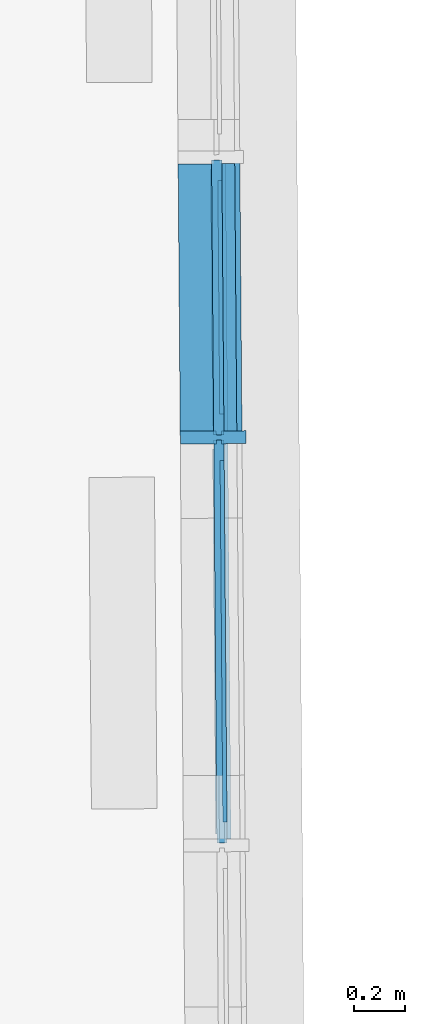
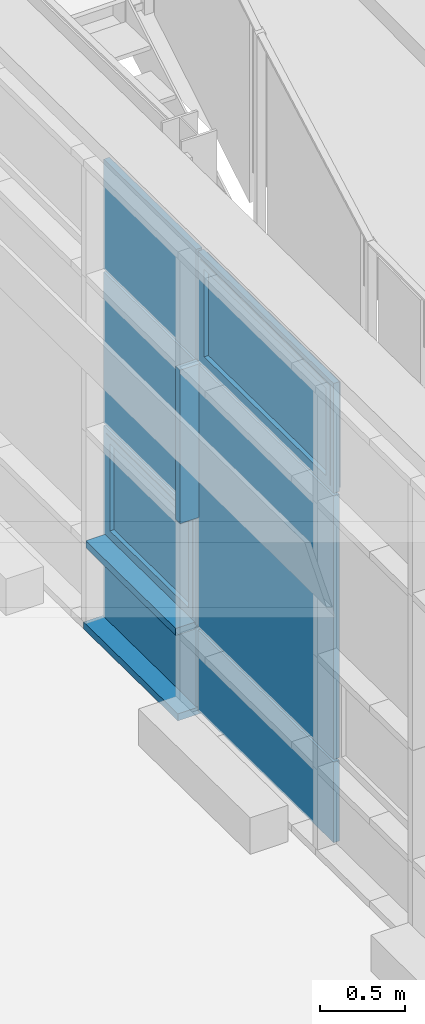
# One storey, part 104 of 158: 12 building element parts, 1 element without a shape of its own.
"""IFC2X3 building model written with IfcOpenShell, lengths in metres."""

from ifc_helpers import new_model, entity, si_unit, converted_unit, derived_unit, money_unit, direction, frame, origin_with_axes, place, context, subcontext, project, spatial, faceted_brep, material, type_object, element, aggregate, save


model = new_model("IFC2X3")

# Units and contexts
model_context = context("Model", 3, precision=1e-05, world=origin_with_axes(), true_north=direction((0.0, 1.0)))
body_context = subcontext(model_context, "Body", "Model", "MODEL_VIEW")
ifc_project = project(units=[si_unit("LENGTHUNIT", "METRE"), si_unit("AREAUNIT", "SQUARE_METRE"), si_unit("VOLUMEUNIT", "CUBIC_METRE"), converted_unit("PLANEANGLEUNIT", "DEGREE", entity("IfcPlaneAngleMeasure", 0.0174532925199), si_unit("PLANEANGLEUNIT", "RADIAN"), dimensions=[0, 0, 0, 0, 0, 0, 0]), money_unit("EUR"), converted_unit("TIMEUNIT", "Year", entity("IfcTimeMeasure", 31556926.0), si_unit("TIMEUNIT", "SECOND"), dimensions=[0, 0, 1, 0, 0, 0, 0]), si_unit("MASSUNIT", "GRAM", prefix="KILO"), si_unit("THERMODYNAMICTEMPERATUREUNIT", "DEGREE_CELSIUS"), si_unit("LUMINOUSINTENSITYUNIT", "LUMEN"), si_unit("ENERGYUNIT", "JOULE", prefix="MEGA"), derived_unit("THERMALCONDUCTANCEUNIT", [(si_unit("POWERUNIT", "WATT"), 1), (si_unit("LENGTHUNIT", "METRE"), -1), (si_unit("THERMODYNAMICTEMPERATUREUNIT", "KELVIN"), -1)]), derived_unit("SPECIFICHEATCAPACITYUNIT", [(si_unit("ENERGYUNIT", "JOULE"), 1), (si_unit("MASSUNIT", "GRAM", prefix="KILO"), -1), (si_unit("THERMODYNAMICTEMPERATUREUNIT", "KELVIN"), -1)]), derived_unit("MASSDENSITYUNIT", [(si_unit("MASSUNIT", "GRAM", prefix="KILO"), 1), (si_unit("VOLUMEUNIT", "CUBIC_METRE"), -1)])], contexts=[model_context])

# Site, building, storey
site_placement = place(None, origin_with_axes())
site = spatial("IfcSite", under=ifc_project, at=site_placement, Name="Gelände", CompositionType="ELEMENT")
building_placement = place(site_placement, origin_with_axes())
building = spatial("IfcBuilding", under=site, at=building_placement, Name="Gebäude", CompositionType="ELEMENT")
storey_placement = place(building_placement, origin_with_axes())
storey = spatial("IfcBuildingStorey", under=building, at=storey_placement, Name="ERDGESCHOSS", CompositionType="ELEMENT", Elevation=0.0)

# Proxy, building element parts
building_element_proxy_type = type_object("IfcBuildingElementProxyType", Name="Fassadentyp", PredefinedType="NOTDEFINED")
proxy_placement = place(storey_placement, frame((-15.5457352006, 40.9565245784, 1.34043905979), z_axis=(0.0, 0.0, 1.0), x_axis=(1.0, 0.0, 0.0)))
proxy = element("IfcBuildingElementProxy", 1, at=proxy_placement, inside=storey, type_object=building_element_proxy_type, Name="Fassade-002")
ifc_material_1 = material(Name="45_Glas, Normalglas")
building_element_part_1_placement = place(proxy_placement, origin_with_axes())
building_element_part_1 = element("IfcBuildingElementPart", 2, at=building_element_part_1_placement, material=ifc_material_1, Name="45_Glas, Normalglas", context=body_context, shape_type="Brep", body=[
    faceted_brep([(0.00616035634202, -3.36213145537, 2.50999994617), (0.0461591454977, -3.36182022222, 2.50999994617), (0.044119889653, -3.09974093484, 2.50999994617), (0.0041211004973, -3.100052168, 2.50999994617), (0.00616035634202, -3.36213145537, 1.42310936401), (0.0461591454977, -3.36182022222, 1.42310936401), (0.0461591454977, -3.36182022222, 1.41999994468), (0.0461591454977, -3.36182022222, 0.629999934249), (0.044119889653, -3.09974093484, 0.629999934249), (0.036339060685, -2.09977120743, 0.629999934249), (0.0339732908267, -1.79572927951, 0.629999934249), (0.0339732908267, -1.79572927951, 1.41999994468), (0.0339732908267, -1.79572927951, 1.4231093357), (0.0339732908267, -1.79572927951, 2.50999994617), (0.036339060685, -2.09977120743, 2.50999994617), (-0.00365972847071, -2.10008244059, 2.50999994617), (-0.00602549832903, -1.79604051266, 2.50999994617), (-0.00602549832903, -1.79604051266, 1.4231093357), (-0.00602549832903, -1.79604051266, 1.41999994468), (-0.00602549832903, -1.79604051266, 0.629999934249), (-0.00365972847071, -2.10008244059, 0.629999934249), (0.0041211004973, -3.100052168, 0.629999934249), (0.00616035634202, -3.36213145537, 0.629999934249), (0.00616035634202, -3.36213145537, 1.41999994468)], [[[0, 1, 2, 3]], [[4, 5, 1, 0]], [[1, 5, 6, 7, 8, 9, 10, 11, 12, 13, 14, 2]], [[3, 2, 14, 15]], [[0, 3, 15, 16, 17, 18, 19, 20, 21, 22, 23, 4]], [[23, 6, 5, 4]], [[22, 7, 6, 23]], [[21, 8, 7, 22]], [[20, 9, 8, 21]], [[19, 10, 9, 20]], [[18, 11, 10, 19]], [[17, 12, 11, 18]], [[16, 13, 12, 17]], [[15, 14, 13, 16]]]),
])
building_element_part_2_placement = place(proxy_placement, origin_with_axes())
building_element_part_2 = element("IfcBuildingElementPart", 3, at=building_element_part_2_placement, material=ifc_material_1, Name="45_Glas, Normalglas", context=body_context, shape_type="Brep", body=[
    faceted_brep([(0.00616035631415, -3.36213145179, 0.609999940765), (0.0461591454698, -3.36182021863, 0.609999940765), (0.0441198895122, -3.09974091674, 0.609999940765), (0.00412110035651, -3.1000521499, 0.609999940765), (0.00616035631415, -3.36213145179, 0.0349999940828), (0.0461591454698, -3.36182021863, 0.0349999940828), (0.0441198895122, -3.09974091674, 0.0349999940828), (0.0363390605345, -2.09977118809, 0.0349999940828), (0.033973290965, -1.79572929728, 0.0349999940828), (0.033973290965, -1.79572929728, 0.609999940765), (0.0363390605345, -2.09977118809, 0.609999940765), (-0.00365972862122, -2.10008242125, 0.609999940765), (-0.00602549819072, -1.79604053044, 0.609999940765), (-0.00602549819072, -1.79604053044, 0.0349999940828), (-0.00365972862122, -2.10008242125, 0.0349999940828), (0.00412110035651, -3.1000521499, 0.0349999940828)], [[[0, 1, 2, 3]], [[4, 5, 1, 0]], [[1, 5, 6, 7, 8, 9, 10, 2]], [[3, 2, 10, 11]], [[0, 3, 11, 12, 13, 14, 15, 4]], [[15, 6, 5, 4]], [[14, 7, 6, 15]], [[13, 8, 7, 14]], [[12, 9, 8, 13]], [[11, 10, 9, 12]]]),
])
ifc_material_2 = material(Name="53_Metall, Aluminium")
building_element_part_3_placement = place(proxy_placement, origin_with_axes())
building_element_part_3 = element("IfcBuildingElementPart", 4, at=building_element_part_3_placement, material=ifc_material_2, Name="53_Metall, Aluminium", context=body_context, shape_type="Brep", body=[
    faceted_brep([(0.0356187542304, -0.721989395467, 0.644999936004), (0.0406186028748, -0.721950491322, 0.644999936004), (0.0487005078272, -1.76061363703, 0.644999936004), (0.0437006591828, -1.76065254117, 0.644999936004), (0.0359688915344, -0.766988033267, 0.689999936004), (0.0409687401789, -0.766949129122, 0.689999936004), (0.0483503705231, -1.71561499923, 0.689999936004), (0.0433505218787, -1.71565390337, 0.689999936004)], [[[0, 1, 2, 3]], [[4, 5, 1, 0]], [[1, 5, 6, 2]], [[3, 2, 6, 7]], [[0, 3, 7, 4]], [[7, 6, 5, 4]]]),
    faceted_brep([(0.0437006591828, -1.76065254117, 0.644999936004), (0.0487005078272, -1.76061363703, 0.644999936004), (0.0487005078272, -1.76061363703, 1.39810935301), (0.0437006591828, -1.76065254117, 1.39810935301), (0.0433505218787, -1.71565390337, 0.689999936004), (0.0483503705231, -1.71561499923, 0.689999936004), (0.0483503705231, -1.71561499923, 1.35310935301), (0.0433505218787, -1.71565390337, 1.35310935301)], [[[0, 1, 2, 3]], [[4, 5, 1, 0]], [[1, 5, 6, 2]], [[3, 2, 6, 7]], [[0, 3, 7, 4]], [[7, 6, 5, 4]]]),
    faceted_brep([(0.0356187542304, -0.721989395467, 1.39810935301), (0.0406186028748, -0.721950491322, 1.39810935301), (0.0409687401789, -0.766949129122, 1.35310935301), (0.0359688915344, -0.766988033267, 1.35310935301), (0.0437006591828, -1.76065254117, 1.39810935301), (0.0487005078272, -1.76061363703, 1.39810935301), (0.0483503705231, -1.71561499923, 1.35310935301), (0.0433505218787, -1.71565390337, 1.35310935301)], [[[0, 1, 2, 3]], [[4, 5, 1, 0]], [[1, 5, 6, 2]], [[3, 2, 6, 7]], [[0, 3, 7, 4]], [[7, 6, 5, 4]]]),
    faceted_brep([(0.0356187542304, -0.721989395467, 0.644999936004), (0.0406186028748, -0.721950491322, 0.644999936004), (0.0409687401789, -0.766949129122, 0.689999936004), (0.0359688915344, -0.766988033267, 0.689999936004), (0.0356187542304, -0.721989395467, 1.39810935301), (0.0406186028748, -0.721950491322, 1.39810935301), (0.0409687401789, -0.766949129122, 1.35310935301), (0.0359688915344, -0.766988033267, 1.35310935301)], [[[0, 1, 2, 3]], [[4, 5, 1, 0]], [[1, 5, 6, 2]], [[3, 2, 6, 7]], [[0, 3, 7, 4]], [[7, 6, 5, 4]]]),
    faceted_brep([(-0.0143797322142, -0.722378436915, 0.644999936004), (0.0356187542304, -0.721989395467, 0.644999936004), (0.0437006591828, -1.76065254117, 0.644999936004), (-0.00629782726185, -1.76104158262, 0.644999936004), (-0.0142241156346, -0.742377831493, 0.664999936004), (0.03577437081, -0.741988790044, 0.664999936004), (0.0435450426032, -1.7406531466, 0.664999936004), (-0.00645344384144, -1.74104218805, 0.664999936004)], [[[0, 1, 2, 3]], [[4, 5, 1, 0]], [[1, 5, 6, 2]], [[3, 2, 6, 7]], [[0, 3, 7, 4]], [[7, 6, 5, 4]]]),
    faceted_brep([(-0.00629782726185, -1.76104158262, 0.644999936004), (0.0437006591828, -1.76065254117, 0.644999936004), (0.0437006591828, -1.76065254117, 1.39810935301), (-0.00629782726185, -1.76104158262, 1.39810935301), (-0.00645344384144, -1.74104218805, 0.664999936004), (0.0435450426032, -1.7406531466, 0.664999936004), (0.0435450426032, -1.7406531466, 1.37810935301), (-0.00645344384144, -1.74104218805, 1.37810935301)], [[[0, 1, 2, 3]], [[4, 5, 1, 0]], [[1, 5, 6, 2]], [[3, 2, 6, 7]], [[0, 3, 7, 4]], [[7, 6, 5, 4]]]),
    faceted_brep([(-0.0143797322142, -0.722378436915, 1.39810935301), (0.0356187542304, -0.721989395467, 1.39810935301), (0.03577437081, -0.741988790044, 1.37810935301), (-0.0142241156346, -0.742377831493, 1.37810935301), (-0.00629782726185, -1.76104158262, 1.39810935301), (0.0437006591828, -1.76065254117, 1.39810935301), (0.0435450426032, -1.7406531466, 1.37810935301), (-0.00645344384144, -1.74104218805, 1.37810935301)], [[[0, 1, 2, 3]], [[4, 5, 1, 0]], [[1, 5, 6, 2]], [[3, 2, 6, 7]], [[0, 3, 7, 4]], [[7, 6, 5, 4]]]),
    faceted_brep([(-0.0143797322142, -0.722378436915, 0.644999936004), (0.0356187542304, -0.721989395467, 0.644999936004), (0.03577437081, -0.741988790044, 0.664999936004), (-0.0142241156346, -0.742377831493, 0.664999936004), (-0.0143797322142, -0.722378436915, 1.39810935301), (0.0356187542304, -0.721989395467, 1.39810935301), (0.03577437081, -0.741988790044, 1.37810935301), (-0.0142241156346, -0.742377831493, 1.37810935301)], [[[0, 1, 2, 3]], [[4, 5, 1, 0]], [[1, 5, 6, 2]], [[3, 2, 6, 7]], [[0, 3, 7, 4]], [[7, 6, 5, 4]]]),
    faceted_brep([(-0.0144964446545, -0.707378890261, 0.629999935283), (0.0255023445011, -0.707067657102, 0.629999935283), (0.0338176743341, -1.77572989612, 0.629999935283), (-0.00618111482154, -1.77604112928, 0.629999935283), (-0.0143797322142, -0.722378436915, 0.644999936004), (0.0256190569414, -0.722067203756, 0.644999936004), (0.0337009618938, -1.76073034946, 0.644999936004), (-0.00629782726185, -1.76104158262, 0.644999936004)], [[[0, 1, 2, 3]], [[4, 5, 1, 0]], [[1, 5, 6, 2]], [[3, 2, 6, 7]], [[0, 3, 7, 4]], [[7, 6, 5, 4]]]),
    faceted_brep([(-0.00618111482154, -1.77604112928, 0.629999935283), (0.0338176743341, -1.77572989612, 0.629999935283), (0.0338176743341, -1.77572989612, 1.41310935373), (-0.00618111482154, -1.77604112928, 1.41310935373), (-0.00629782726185, -1.76104158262, 0.644999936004), (0.0337009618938, -1.76073034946, 0.644999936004), (0.0337009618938, -1.76073034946, 1.39810935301), (-0.00629782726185, -1.76104158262, 1.39810935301)], [[[0, 1, 2, 3]], [[4, 5, 1, 0]], [[1, 5, 6, 2]], [[3, 2, 6, 7]], [[0, 3, 7, 4]], [[7, 6, 5, 4]]]),
    faceted_brep([(-0.00618111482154, -1.77604112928, 1.41310935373), (0.0338176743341, -1.77572989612, 1.41310935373), (0.0255023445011, -0.707067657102, 1.41310935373), (-0.0144964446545, -0.707378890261, 1.41310935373), (-0.00629782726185, -1.76104158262, 1.39810935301), (0.0337009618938, -1.76073034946, 1.39810935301), (0.0256190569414, -0.722067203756, 1.39810935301), (-0.0143797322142, -0.722378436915, 1.39810935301)], [[[0, 1, 2, 3]], [[4, 5, 1, 0]], [[1, 5, 6, 2]], [[3, 2, 6, 7]], [[0, 3, 7, 4]], [[7, 6, 5, 4]]]),
    faceted_brep([(-0.0144964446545, -0.707378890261, 1.41310935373), (0.0255023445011, -0.707067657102, 1.41310935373), (0.0255023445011, -0.707067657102, 0.629999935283), (-0.0144964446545, -0.707378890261, 0.629999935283), (-0.0143797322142, -0.722378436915, 1.39810935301), (0.0256190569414, -0.722067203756, 1.39810935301), (0.0256190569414, -0.722067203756, 0.644999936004), (-0.0143797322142, -0.722378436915, 0.644999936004)], [[[0, 1, 2, 3]], [[4, 5, 1, 0]], [[1, 5, 6, 2]], [[3, 2, 6, 7]], [[0, 3, 7, 4]], [[7, 6, 5, 4]]]),
    faceted_brep([(0.036124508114, -0.786987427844, 0.709999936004), (0.036124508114, -0.786987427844, 1.33310935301), (-0.018873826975, -0.787415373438, 1.33310935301), (-0.018873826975, -0.787415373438, 0.709999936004), (0.03577437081, -0.741988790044, 0.664999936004), (0.03577437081, -0.741988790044, 1.37810935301), (-0.0192239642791, -0.742416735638, 1.37810935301), (-0.0192239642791, -0.742416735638, 0.664999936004)], [[[0, 1, 2, 3]], [[0, 4, 5, 1]], [[1, 5, 6, 2]], [[3, 2, 6, 7]], [[4, 0, 3, 7]], [[5, 4, 7, 6]]]),
    faceted_brep([(0.0435450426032, -1.7406531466, 0.664999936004), (0.0435450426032, -1.7406531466, 1.37810935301), (-0.0114532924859, -1.74108109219, 1.37810935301), (-0.0114532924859, -1.74108109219, 0.664999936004), (0.0431949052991, -1.6956545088, 0.709999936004), (0.0431949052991, -1.6956545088, 1.33310935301), (-0.01180342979, -1.69608245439, 1.33310935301), (-0.01180342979, -1.69608245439, 0.709999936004)], [[[0, 1, 2, 3]], [[0, 4, 5, 1]], [[1, 5, 6, 2]], [[3, 2, 6, 7]], [[4, 0, 3, 7]], [[5, 4, 7, 6]]]),
    faceted_brep([(0.0435450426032, -1.7406531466, 0.664999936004), (0.0431949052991, -1.6956545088, 0.709999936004), (-0.01180342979, -1.69608245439, 0.709999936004), (-0.0114532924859, -1.74108109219, 0.664999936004), (0.03577437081, -0.741988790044, 0.664999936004), (0.036124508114, -0.786987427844, 0.709999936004), (-0.018873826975, -0.787415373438, 0.709999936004), (-0.0192239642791, -0.742416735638, 0.664999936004)], [[[0, 1, 2, 3]], [[0, 4, 5, 1]], [[1, 5, 6, 2]], [[3, 2, 6, 7]], [[4, 0, 3, 7]], [[5, 4, 7, 6]]]),
    faceted_brep([(0.03577437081, -0.741988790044, 1.37810935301), (0.036124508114, -0.786987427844, 1.33310935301), (-0.018873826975, -0.787415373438, 1.33310935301), (-0.0192239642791, -0.742416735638, 1.37810935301), (0.0435450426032, -1.7406531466, 1.37810935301), (0.0431949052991, -1.6956545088, 1.33310935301), (-0.01180342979, -1.69608245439, 1.33310935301), (-0.0114532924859, -1.74108109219, 1.37810935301)], [[[0, 1, 2, 3]], [[0, 4, 5, 1]], [[1, 5, 6, 2]], [[3, 2, 6, 7]], [[4, 0, 3, 7]], [[5, 4, 7, 6]]]),
])
building_element_part_4_placement = place(proxy_placement, origin_with_axes())
building_element_part_4 = element("IfcBuildingElementPart", 5, at=building_element_part_4_placement, material=ifc_material_1, Name="45_Glas, Normalglas", context=body_context, shape_type="Brep", body=[
    faceted_brep([(0.0261248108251, -0.787065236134, 0.709999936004), (0.0331952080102, -1.69573231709, 0.709999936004), (0.0171956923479, -1.69585681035, 0.709999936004), (0.0101252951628, -0.787189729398, 0.709999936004), (0.0261248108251, -0.787065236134, 1.33310935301), (0.0331952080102, -1.69573231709, 1.33310935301), (0.0171956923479, -1.69585681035, 1.33310935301), (0.0101252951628, -0.787189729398, 1.33310935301)], [[[0, 1, 2, 3]], [[0, 4, 5, 1]], [[1, 5, 6, 2]], [[3, 2, 6, 7]], [[4, 0, 3, 7]], [[5, 4, 7, 6]]]),
])
building_element_part_5_placement = place(proxy_placement, origin_with_axes())
building_element_part_5 = element("IfcBuildingElementPart", 6, at=building_element_part_5_placement, material=ifc_material_1, Name="45_Glas, Normalglas", context=body_context, shape_type="Brep", body=[
    faceted_brep([(-0.00618111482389, -1.77604112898, 0.609999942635), (0.0338176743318, -1.77572989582, 0.609999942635), (0.0255023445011, -0.707067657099, 0.609999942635), (-0.0144964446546, -0.707378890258, 0.609999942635), (-0.00618111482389, -1.77604112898, 0.0350000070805), (0.0338176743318, -1.77572989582, 0.0350000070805), (0.0255023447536, -0.707067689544, 0.0350000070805), (-0.0144964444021, -0.707378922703, 0.0350000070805)], [[[0, 1, 2, 3]], [[4, 5, 1, 0]], [[1, 5, 6, 2]], [[3, 2, 6, 7]], [[0, 3, 7, 4]], [[7, 6, 5, 4]]]),
])
building_element_part_6_placement = place(proxy_placement, origin_with_axes())
building_element_part_6 = element("IfcBuildingElementPart", 7, at=building_element_part_6_placement, material=ifc_material_1, Name="45_Glas, Normalglas", context=body_context, shape_type="Brep", body=[
    faceted_brep([(-0.00618111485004, -1.77604112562, 2.50999994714), (0.0338176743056, -1.77572989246, 2.50999994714), (0.0255023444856, -0.707067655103, 2.50999994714), (-0.0144964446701, -0.707378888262, 2.50999994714), (-0.00618111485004, -1.77604112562, 1.43310934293), (0.0338176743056, -1.77572989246, 1.43310934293), (0.0255023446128, -0.707067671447, 1.43310934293), (-0.0144964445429, -0.707378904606, 1.43310934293)], [[[0, 1, 2, 3]], [[4, 5, 1, 0]], [[1, 5, 6, 2]], [[3, 2, 6, 7]], [[0, 3, 7, 4]], [[7, 6, 5, 4]]]),
])
building_element_part_7_placement = place(proxy_placement, origin_with_axes())
building_element_part_7 = element("IfcBuildingElementPart", 8, at=building_element_part_7_placement, material=ifc_material_1, Name="45_Glas, Normalglas", context=body_context, shape_type="Brep", body=[
    faceted_brep([(-0.00618111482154, -1.77604112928, 3.31499988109), (0.0338176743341, -1.77572989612, 3.31499988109), (0.0255023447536, -0.707067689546, 3.31499988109), (-0.0144964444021, -0.707378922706, 3.31499988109), (-0.00618111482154, -1.77604112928, 2.52999993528), (0.0338176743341, -1.77572989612, 2.52999993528), (0.0255023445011, -0.707067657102, 2.52999993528), (-0.0144964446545, -0.707378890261, 2.52999993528)], [[[0, 1, 2, 3]], [[4, 5, 1, 0]], [[1, 5, 6, 2]], [[3, 2, 6, 7]], [[0, 3, 7, 4]], [[7, 6, 5, 4]]]),
])
building_element_part_8_placement = place(proxy_placement, origin_with_axes())
building_element_part_8 = element("IfcBuildingElementPart", 9, at=building_element_part_8_placement, material=ifc_material_2, Name="53_Metall, Aluminium", context=body_context, shape_type="Brep", body=[
    faceted_brep([(0.0440897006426, -1.81065102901, 2.54499994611), (0.049089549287, -1.81061212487, 2.54499994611), (0.0610419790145, -3.34670396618, 2.54499994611), (0.0560421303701, -3.34674287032, 2.54499994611), (0.0444398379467, -1.85564966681, 2.58999994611), (0.0494396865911, -1.85561076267, 2.58999994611), (0.0606918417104, -3.30170532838, 2.58999994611), (0.055691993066, -3.30174423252, 2.58999994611)], [[[0, 1, 2, 3]], [[4, 5, 1, 0]], [[1, 5, 6, 2]], [[3, 2, 6, 7]], [[0, 3, 7, 4]], [[7, 6, 5, 4]]]),
    faceted_brep([(0.0560421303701, -3.34674287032, 2.54499994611), (0.0610419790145, -3.34670396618, 2.54499994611), (0.0610419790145, -3.34670396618, 3.29999986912), (0.0560421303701, -3.34674287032, 3.29999986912), (0.055691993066, -3.30174423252, 2.58999994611), (0.0606918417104, -3.30170532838, 2.58999994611), (0.0606918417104, -3.30170532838, 3.25499986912), (0.055691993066, -3.30174423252, 3.25499986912)], [[[0, 1, 2, 3]], [[4, 5, 1, 0]], [[1, 5, 6, 2]], [[3, 2, 6, 7]], [[0, 3, 7, 4]], [[7, 6, 5, 4]]]),
    faceted_brep([(0.0440897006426, -1.81065102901, 3.29999986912), (0.049089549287, -1.81061212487, 3.29999986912), (0.0494396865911, -1.85561076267, 3.25499986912), (0.0444398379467, -1.85564966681, 3.25499986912), (0.0560421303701, -3.34674287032, 3.29999986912), (0.0610419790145, -3.34670396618, 3.29999986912), (0.0606918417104, -3.30170532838, 3.25499986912), (0.055691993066, -3.30174423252, 3.25499986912)], [[[0, 1, 2, 3]], [[4, 5, 1, 0]], [[1, 5, 6, 2]], [[3, 2, 6, 7]], [[0, 3, 7, 4]], [[7, 6, 5, 4]]]),
    faceted_brep([(0.0440897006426, -1.81065102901, 2.54499994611), (0.049089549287, -1.81061212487, 2.54499994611), (0.0494396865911, -1.85561076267, 2.58999994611), (0.0444398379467, -1.85564966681, 2.58999994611), (0.0440897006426, -1.81065102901, 3.29999986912), (0.049089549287, -1.81061212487, 3.29999986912), (0.0494396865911, -1.85561076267, 3.25499986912), (0.0444398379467, -1.85564966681, 3.25499986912)], [[[0, 1, 2, 3]], [[4, 5, 1, 0]], [[1, 5, 6, 2]], [[3, 2, 6, 7]], [[0, 3, 7, 4]], [[7, 6, 5, 4]]]),
    faceted_brep([(-0.00590878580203, -1.81104007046, 2.54499994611), (0.0440897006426, -1.81065102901, 2.54499994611), (0.0560421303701, -3.34674287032, 2.54499994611), (0.00604364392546, -3.34713191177, 2.54499994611), (-0.00575316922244, -1.83103946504, 2.56499994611), (0.0442453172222, -1.83065042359, 2.56499994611), (0.0558865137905, -3.32674347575, 2.56499994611), (0.00588802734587, -3.32713251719, 2.56499994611)], [[[0, 1, 2, 3]], [[4, 5, 1, 0]], [[1, 5, 6, 2]], [[3, 2, 6, 7]], [[0, 3, 7, 4]], [[7, 6, 5, 4]]]),
    faceted_brep([(0.00604364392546, -3.34713191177, 2.54499994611), (0.0560421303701, -3.34674287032, 2.54499994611), (0.0560421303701, -3.34674287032, 3.29999986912), (0.00604364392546, -3.34713191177, 3.29999986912), (0.00588802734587, -3.32713251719, 2.56499994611), (0.0558865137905, -3.32674347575, 2.56499994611), (0.0558865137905, -3.32674347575, 3.27999986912), (0.00588802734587, -3.32713251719, 3.27999986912)], [[[0, 1, 2, 3]], [[4, 5, 1, 0]], [[1, 5, 6, 2]], [[3, 2, 6, 7]], [[0, 3, 7, 4]], [[7, 6, 5, 4]]]),
    faceted_brep([(-0.00590878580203, -1.81104007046, 3.29999986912), (0.0440897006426, -1.81065102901, 3.29999986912), (0.0442453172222, -1.83065042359, 3.27999986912), (-0.00575316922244, -1.83103946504, 3.27999986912), (0.00604364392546, -3.34713191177, 3.29999986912), (0.0560421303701, -3.34674287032, 3.29999986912), (0.0558865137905, -3.32674347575, 3.27999986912), (0.00588802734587, -3.32713251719, 3.27999986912)], [[[0, 1, 2, 3]], [[4, 5, 1, 0]], [[1, 5, 6, 2]], [[3, 2, 6, 7]], [[0, 3, 7, 4]], [[7, 6, 5, 4]]]),
    faceted_brep([(-0.00590878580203, -1.81104007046, 2.54499994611), (0.0440897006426, -1.81065102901, 2.54499994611), (0.0442453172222, -1.83065042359, 2.56499994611), (-0.00575316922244, -1.83103946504, 2.56499994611), (-0.00590878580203, -1.81104007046, 3.29999986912), (0.0440897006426, -1.81065102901, 3.29999986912), (0.0442453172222, -1.83065042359, 3.27999986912), (-0.00575316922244, -1.83103946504, 3.27999986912)], [[[0, 1, 2, 3]], [[4, 5, 1, 0]], [[1, 5, 6, 2]], [[3, 2, 6, 7]], [[0, 3, 7, 4]], [[7, 6, 5, 4]]]),
    faceted_brep([(-0.00602549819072, -1.79604053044, 2.52999995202), (0.033973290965, -1.79572929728, 2.52999995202), (0.0461591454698, -3.36182021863, 2.52999995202), (0.00616035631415, -3.36213145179, 2.52999995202), (-0.00590878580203, -1.81104007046, 2.54499994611), (0.0340900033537, -1.8107288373, 2.54499994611), (0.0460424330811, -3.34682067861, 2.54499994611), (0.00604364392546, -3.34713191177, 2.54499994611)], [[[0, 1, 2, 3]], [[4, 5, 1, 0]], [[1, 5, 6, 2]], [[3, 2, 6, 7]], [[0, 3, 7, 4]], [[7, 6, 5, 4]]]),
    faceted_brep([(0.00616035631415, -3.36213145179, 2.52999995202), (0.0461591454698, -3.36182021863, 2.52999995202), (0.0461591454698, -3.36182021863, 3.31499988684), (0.00616035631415, -3.36213145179, 3.31499988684), (0.00604364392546, -3.34713191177, 2.54499994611), (0.0460424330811, -3.34682067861, 2.54499994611), (0.0460424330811, -3.34682067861, 3.29999986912), (0.00604364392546, -3.34713191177, 3.29999986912)], [[[0, 1, 2, 3]], [[4, 5, 1, 0]], [[1, 5, 6, 2]], [[3, 2, 6, 7]], [[0, 3, 7, 4]], [[7, 6, 5, 4]]]),
    faceted_brep([(0.00616035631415, -3.36213145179, 3.31499988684), (0.0461591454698, -3.36182021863, 3.31499988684), (0.033973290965, -1.79572929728, 3.31499988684), (-0.00602549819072, -1.79604053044, 3.31499988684), (0.00604364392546, -3.34713191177, 3.29999986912), (0.0460424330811, -3.34682067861, 3.29999986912), (0.0340900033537, -1.8107288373, 3.29999986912), (-0.00590878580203, -1.81104007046, 3.29999986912)], [[[0, 1, 2, 3]], [[4, 5, 1, 0]], [[1, 5, 6, 2]], [[3, 2, 6, 7]], [[0, 3, 7, 4]], [[7, 6, 5, 4]]]),
    faceted_brep([(-0.00602549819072, -1.79604053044, 3.31499988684), (0.033973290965, -1.79572929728, 3.31499988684), (0.033973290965, -1.79572929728, 2.52999995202), (-0.00602549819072, -1.79604053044, 2.52999995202), (-0.00590878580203, -1.81104007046, 3.29999986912), (0.0340900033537, -1.8107288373, 3.29999986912), (0.0340900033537, -1.8107288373, 2.54499994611), (-0.00590878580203, -1.81104007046, 2.54499994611)], [[[0, 1, 2, 3]], [[4, 5, 1, 0]], [[1, 5, 6, 2]], [[3, 2, 6, 7]], [[0, 3, 7, 4]], [[7, 6, 5, 4]]]),
    faceted_brep([(0.0445954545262, -1.87564906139, 2.60999994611), (0.0445954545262, -1.87564906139, 3.23499986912), (-0.0104028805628, -1.87607700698, 3.23499986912), (-0.0104028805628, -1.87607700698, 2.60999994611), (0.0442453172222, -1.83065042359, 2.56499994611), (0.0442453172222, -1.83065042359, 3.27999986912), (-0.0107530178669, -1.83107836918, 3.27999986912), (-0.0107530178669, -1.83107836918, 2.56499994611)], [[[0, 1, 2, 3]], [[0, 4, 5, 1]], [[1, 5, 6, 2]], [[3, 2, 6, 7]], [[4, 0, 3, 7]], [[5, 4, 7, 6]]]),
    faceted_brep([(0.0558865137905, -3.32674347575, 2.56499994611), (0.0558865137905, -3.32674347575, 3.27999986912), (0.000888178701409, -3.32717142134, 3.27999986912), (0.000888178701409, -3.32717142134, 2.56499994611), (0.0555363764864, -3.28174483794, 2.60999994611), (0.0555363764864, -3.28174483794, 3.23499986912), (0.000538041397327, -3.28217278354, 3.23499986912), (0.000538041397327, -3.28217278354, 2.60999994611)], [[[0, 1, 2, 3]], [[0, 4, 5, 1]], [[1, 5, 6, 2]], [[3, 2, 6, 7]], [[4, 0, 3, 7]], [[5, 4, 7, 6]]]),
    faceted_brep([(0.0558865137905, -3.32674347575, 2.56499994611), (0.0555363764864, -3.28174483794, 2.60999994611), (0.000538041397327, -3.28217278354, 2.60999994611), (0.000888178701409, -3.32717142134, 2.56499994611), (0.0442453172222, -1.83065042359, 2.56499994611), (0.0445954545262, -1.87564906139, 2.60999994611), (-0.0104028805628, -1.87607700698, 2.60999994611), (-0.0107530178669, -1.83107836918, 2.56499994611)], [[[0, 1, 2, 3]], [[0, 4, 5, 1]], [[1, 5, 6, 2]], [[3, 2, 6, 7]], [[4, 0, 3, 7]], [[5, 4, 7, 6]]]),
    faceted_brep([(0.0442453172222, -1.83065042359, 3.27999986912), (0.0445954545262, -1.87564906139, 3.23499986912), (-0.0104028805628, -1.87607700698, 3.23499986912), (-0.0107530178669, -1.83107836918, 3.27999986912), (0.0558865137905, -3.32674347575, 3.27999986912), (0.0555363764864, -3.28174483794, 3.23499986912), (0.000538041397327, -3.28217278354, 3.23499986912), (0.000888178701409, -3.32717142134, 3.27999986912)], [[[0, 1, 2, 3]], [[0, 4, 5, 1]], [[1, 5, 6, 2]], [[3, 2, 6, 7]], [[4, 0, 3, 7]], [[5, 4, 7, 6]]]),
])
building_element_part_9_placement = place(proxy_placement, origin_with_axes())
building_element_part_9 = element("IfcBuildingElementPart", 10, at=building_element_part_9_placement, material=ifc_material_1, Name="45_Glas, Normalglas", context=body_context, shape_type="Brep", body=[
    faceted_brep([(0.0345957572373, -1.87572686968, 2.60999994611), (0.0455366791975, -3.28182264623, 2.60999994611), (0.0295371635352, -3.2819471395, 2.60999994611), (0.0185962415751, -1.87585136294, 2.60999994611), (0.0345957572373, -1.87572686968, 3.23499986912), (0.0455366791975, -3.28182264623, 3.23499986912), (0.0295371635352, -3.2819471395, 3.23499986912), (0.0185962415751, -1.87585136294, 3.23499986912)], [[[0, 1, 2, 3]], [[0, 4, 5, 1]], [[1, 5, 6, 2]], [[3, 2, 6, 7]], [[4, 0, 3, 7]], [[5, 4, 7, 6]]]),
])
building_element_part_10_placement = place(proxy_placement, origin_with_axes())
building_element_part_10 = element("IfcBuildingElementPart", 11, at=building_element_part_10_placement, material=ifc_material_2, Name="53_Metall, Aluminium", context=body_context, shape_type="Brep", body=[
    faceted_brep([(0.00370186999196, -1.76096376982, 0.60999994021), (0.0237012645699, -1.76080815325, 0.60999994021), (0.0237012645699, -1.76080815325, 0.59499994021), (0.0836994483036, -1.76034130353, 0.59499994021), (0.0836994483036, -1.76034130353, 0.64499994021), (0.0237012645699, -1.76080815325, 0.64499994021), (0.0237012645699, -1.76080815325, 0.62999994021), (0.00370186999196, -1.76096376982, 0.62999994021), (0.00370186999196, -1.76096376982, 0.64499994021), (-0.136293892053, -1.76205308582, 0.64499994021), (-0.136293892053, -1.76205308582, 0.59499994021), (0.00370186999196, -1.76096376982, 0.59499994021), (-0.00438003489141, -0.722300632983, 0.60999994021), (0.0156193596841, -0.7221450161, 0.60999994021), (0.0156193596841, -0.7221450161, 0.59499994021), (0.0756175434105, -0.721678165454, 0.59499994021), (0.0756175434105, -0.721678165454, 0.64499994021), (0.0156193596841, -0.7221450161, 0.64499994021), (0.0156193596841, -0.7221450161, 0.62999994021), (-0.00438003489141, -0.722300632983, 0.62999994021), (-0.00438003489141, -0.722300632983, 0.64499994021), (-0.14437579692, -0.723389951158, 0.64499994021), (-0.14437579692, -0.723389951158, 0.59499994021), (-0.00438003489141, -0.722300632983, 0.59499994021)], [[[0, 1, 2, 3, 4, 5, 6, 7, 8, 9, 10, 11]], [[0, 12, 13, 1]], [[1, 13, 14, 2]], [[14, 15, 3, 2]], [[4, 3, 15, 16]], [[17, 5, 4, 16]], [[5, 17, 18, 6]], [[7, 6, 18, 19]], [[8, 7, 19, 20]], [[8, 20, 21, 9]], [[10, 9, 21, 22]], [[11, 10, 22, 23]], [[11, 23, 12, 0]], [[13, 12, 23, 22, 21, 20, 19, 18, 17, 16, 15, 14]]]),
])
building_element_part_11_placement = place(proxy_placement, origin_with_axes())
building_element_part_11 = element("IfcBuildingElementPart", 12, at=building_element_part_11_placement, material=ifc_material_2, Name="53_Metall, Aluminium", context=body_context, shape_type="Brep", body=[
    faceted_brep([(0.00389639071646, -1.78596301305, 0.035), (0.00389639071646, -1.78596301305, 0.05), (-0.136099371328, -1.7870523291, 0.05), (-0.136099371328, -1.7870523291, 0.0), (0.103893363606, -1.78518493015, 0.0), (0.103893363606, -1.78518493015, 0.05), (0.0238957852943, -1.78580739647, 0.05), (0.0238957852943, -1.78580739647, 0.035), (-0.00457455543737, -0.697301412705, 0.035), (-0.00457455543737, -0.697301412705, 0.05), (-0.144570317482, -0.698390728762, 0.05), (-0.144570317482, -0.698390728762, 0.0), (0.0954224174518, -0.696523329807, 0.0), (0.0954224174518, -0.696523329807, 0.05), (0.0154248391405, -0.697145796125, 0.05), (0.0154248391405, -0.697145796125, 0.035)], [[[0, 1, 2, 3, 4, 5, 6, 7]], [[0, 8, 9, 1]], [[9, 10, 2, 1]], [[10, 11, 3, 2]], [[11, 12, 4, 3]], [[12, 13, 5, 4]], [[6, 5, 13, 14]], [[14, 15, 7, 6]], [[7, 15, 8, 0]], [[8, 15, 14, 13, 12, 11, 10, 9]]]),
])
building_element_part_12_placement = place(proxy_placement, origin_with_axes())
building_element_part_12 = element("IfcBuildingElementPart", 13, at=building_element_part_12_placement, material=ifc_material_2, Name="53_Metall, Aluminium", context=body_context, shape_type="Brep", body=[
    faceted_brep([(0.00397419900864, -1.79596271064, 2.51999993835), (0.0239735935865, -1.79580709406, 2.51999993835), (0.0240903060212, -1.81080663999, 2.51999993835), (0.119087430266, -1.81006746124, 2.51999993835), (0.118698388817, -1.7600689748, 2.51999993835), (0.0237012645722, -1.76080815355, 2.51999993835), (0.0238179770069, -1.77580769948, 2.51999993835), (0.00381858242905, -1.77596331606, 2.51999993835), (0.00370186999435, -1.76096377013, 2.51999993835), (-0.136293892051, -1.76205308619, 2.51999993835), (-0.135904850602, -1.81205157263, 2.51999993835), (0.00409091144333, -1.81096225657, 2.51999993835), (0.00397419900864, -1.79596271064, 1.42310934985), (0.0239735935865, -1.79580709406, 1.42310934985), (0.0240903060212, -1.81080663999, 1.42310934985), (0.119087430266, -1.81006746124, 1.42310934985), (0.118698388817, -1.7600689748, 1.42310934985), (0.0237012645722, -1.76080815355, 1.42310934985), (0.0238179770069, -1.77580769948, 1.42310934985), (0.00381858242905, -1.77596331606, 1.42310934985), (0.00370186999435, -1.76096377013, 1.42310934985), (-0.136293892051, -1.76205308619, 1.42310934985), (-0.135904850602, -1.81205157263, 1.42310934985), (0.00409091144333, -1.81096225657, 1.42310934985)], [[[0, 1, 2, 3, 4, 5, 6, 7, 8, 9, 10, 11]], [[0, 12, 13, 1]], [[1, 13, 14, 2]], [[14, 15, 3, 2]], [[3, 15, 16, 4]], [[17, 5, 4, 16]], [[5, 17, 18, 6]], [[7, 6, 18, 19]], [[8, 7, 19, 20]], [[8, 20, 21, 9]], [[9, 21, 22, 10]], [[11, 10, 22, 23]], [[11, 23, 12, 0]], [[13, 12, 23, 22, 21, 20, 19, 18, 17, 16, 15, 14]]]),
])
aggregate(proxy, [building_element_part_1, building_element_part_2, building_element_part_3, building_element_part_4, building_element_part_5, building_element_part_6, building_element_part_7, building_element_part_8, building_element_part_9, building_element_part_10, building_element_part_11, building_element_part_12])

save(model, "model.ifc")
